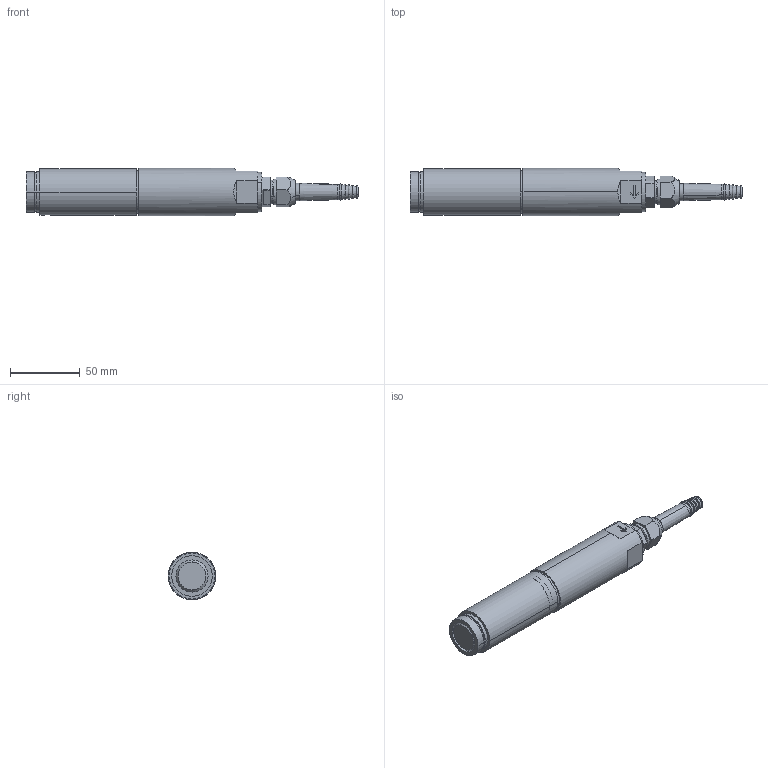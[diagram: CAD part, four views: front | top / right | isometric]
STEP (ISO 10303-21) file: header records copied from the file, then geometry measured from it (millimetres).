
FILE_DESCRIPTION (( 'STEP AP214' ), '1' );
FILE_NAME ('KIS-2 5kN Load Cell.STEP', '2021-07-01T06:42:09', ( '' ), ( '' ), 'SwSTEP 2.0', 'SolidWorks 2021', '' );
FILE_SCHEMA (( 'AUTOMOTIVE_DESIGN' ));
Length unit declared in the file: millimetre
Products named in the file (7): Wiberger-frp_A2_4x14; 6335014r1; 6335015r4; M26x1.5 - Pg9 - 6369829; Pg9 - 1009.52 6_2_14; KIS-2 5kN Load Cell; 4087786r5
Assembly tree (6 placements, depth 2):
  KIS-2 5kN Load Cell
    4087786r5
    6335015r4
    6335014r1
    M26x1.5 - Pg9 - 6369829
    Pg9 - 1009.52 6_2_14
    Wiberger-frp_A2_4x14
Bounding box: 238 x 34 x 34 mm (x, y, z)
Volume: 148686.3 mm3; surface area: 47160.6 mm2
Topology: 6 solids, 9 shells, 396 faces, 983 edges, 634 vertices
Faces by surface type: plane 195, cylinder 93, cone 57, bspline 39, torus 12
Entity records: 17813 total; most frequent: CARTESIAN_POINT 7939, ORIENTED_EDGE 1966, DIRECTION 1779, EDGE_CURVE 983, VERTEX_POINT 634, AXIS2_PLACEMENT_3D 605, VECTOR 569, LINE 569
